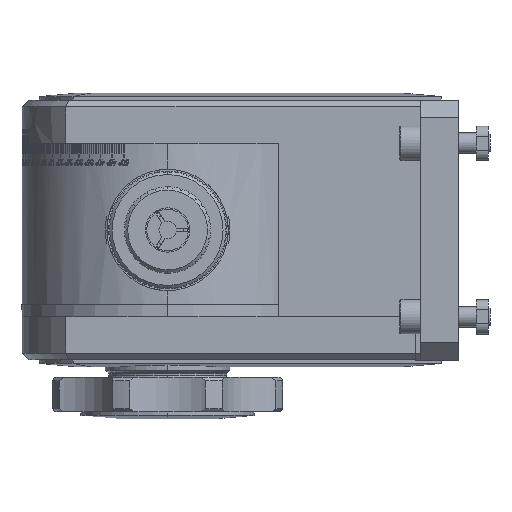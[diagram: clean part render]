
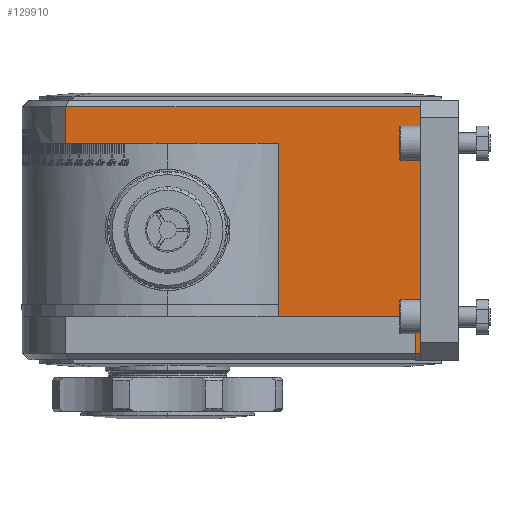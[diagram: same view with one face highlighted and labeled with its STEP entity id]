
A CAD part, left-side view. The second image highlights one B-rep face of the part: STEP entity #129910.
In plain terms, the highlighted planar face has unit normal (-1, 0, 0).
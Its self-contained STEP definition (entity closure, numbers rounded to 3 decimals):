
#3580 = ORIENTED_EDGE ( 'NONE', *, *, #45693, .F. ) ;
#4707 = VERTEX_POINT ( 'NONE', #95624 ) ;
#7095 = EDGE_CURVE ( 'NONE', #31865, #85258, #20490, .T. ) ;
#7173 = CARTESIAN_POINT ( 'NONE',  ( -30., -73., 25. ) ) ;
#8089 = ORIENTED_EDGE ( 'NONE', *, *, #49760, .F. ) ;
#11224 = VERTEX_POINT ( 'NONE', #135910 ) ;
#12804 = DIRECTION ( 'NONE',  ( 0., 0., 1. ) ) ;
#13016 = CARTESIAN_POINT ( 'NONE',  ( -30., -32., 25. ) ) ;
#14128 = CARTESIAN_POINT ( 'NONE',  ( -30., 0., 25. ) ) ;
#20490 = LINE ( 'NONE', #40951, #135490 ) ;
#20551 = EDGE_CURVE ( 'NONE', #102044, #4707, #34190, .T. ) ;
#24769 = DIRECTION ( 'NONE',  ( 0., -1., 0. ) ) ;
#31865 = VERTEX_POINT ( 'NONE', #72848 ) ;
#32614 = ORIENTED_EDGE ( 'NONE', *, *, #20551, .T. ) ;
#34190 = LINE ( 'NONE', #65217, #107113 ) ;
#34398 = ORIENTED_EDGE ( 'NONE', *, *, #128861, .T. ) ;
#38087 = VECTOR ( 'NONE', #72734, 1000. ) ;
#40951 = CARTESIAN_POINT ( 'NONE',  ( -30., 29.394, 37.5 ) ) ;
#45189 = EDGE_CURVE ( 'NONE', #109903, #77927, #48015, .T. ) ;
#45693 = EDGE_CURVE ( 'NONE', #102044, #77927, #119929, .T. ) ;
#48015 = LINE ( 'NONE', #67075, #67076 ) ;
#49760 = EDGE_CURVE ( 'NONE', #11224, #4707, #126247, .T. ) ;
#52600 = ORIENTED_EDGE ( 'NONE', *, *, #124536, .T. ) ;
#57711 = CARTESIAN_POINT ( 'NONE',  ( -30., -84., 25. ) ) ;
#65217 = CARTESIAN_POINT ( 'NONE',  ( -30., 0., -35.5 ) ) ;
#66409 = CARTESIAN_POINT ( 'NONE',  ( -30., -71.5, -37.5 ) ) ;
#66628 = EDGE_LOOP ( 'NONE', ( #3580, #32614, #8089, #52600, #99601, #85810, #34398, #103291 ) ) ;
#67075 = CARTESIAN_POINT ( 'NONE',  ( -30., 0., -25. ) ) ;
#67076 = VECTOR ( 'NONE', #24769, 1000. ) ;
#68066 = EDGE_CURVE ( 'NONE', #85258, #114255, #134471, .T. ) ;
#71356 = CARTESIAN_POINT ( 'NONE',  ( -30., -71.5, -25. ) ) ;
#71394 = VECTOR ( 'NONE', #124590, 1000. ) ;
#72734 = DIRECTION ( 'NONE',  ( 0., 0., -1. ) ) ;
#72848 = CARTESIAN_POINT ( 'NONE',  ( -30., 29.394, 35.5 ) ) ;
#77927 = VERTEX_POINT ( 'NONE', #71356 ) ;
#79664 = FACE_OUTER_BOUND ( 'NONE', #66628, .T. ) ;
#85258 = VERTEX_POINT ( 'NONE', #114914 ) ;
#85810 = ORIENTED_EDGE ( 'NONE', *, *, #68066, .T. ) ;
#88400 = DIRECTION ( 'NONE',  ( 0., 1., 0. ) ) ;
#90216 = DIRECTION ( 'NONE',  ( 0., 1., 0. ) ) ;
#94946 = VECTOR ( 'NONE', #88400, 1000. ) ;
#95624 = CARTESIAN_POINT ( 'NONE',  ( -30., -73., -35.5 ) ) ;
#98238 = DIRECTION ( 'NONE',  ( 0., -1., 0. ) ) ;
#99601 = ORIENTED_EDGE ( 'NONE', *, *, #7095, .T. ) ;
#100064 = DIRECTION ( 'NONE',  ( 1., 0., 0. ) ) ;
#101764 = LINE ( 'NONE', #134197, #104011 ) ;
#102044 = VERTEX_POINT ( 'NONE', #126513 ) ;
#103291 = ORIENTED_EDGE ( 'NONE', *, *, #45189, .T. ) ;
#104011 = VECTOR ( 'NONE', #111005, 1000. ) ;
#104114 = AXIS2_PLACEMENT_3D ( 'NONE', #14128, #100064, #90216 ) ;
#107113 = VECTOR ( 'NONE', #98238, 1000. ) ;
#109903 = VERTEX_POINT ( 'NONE', #136189 ) ;
#111005 = DIRECTION ( 'NONE',  ( 0., 0., -1. ) ) ;
#114255 = VERTEX_POINT ( 'NONE', #13016 ) ;
#114914 = CARTESIAN_POINT ( 'NONE',  ( -30., 29.394, 25. ) ) ;
#119929 = LINE ( 'NONE', #66409, #125588 ) ;
#121219 = PLANE ( 'NONE',  #104114 ) ;
#121462 = CARTESIAN_POINT ( 'NONE',  ( -30., 29.394, 35.5 ) ) ;
#124536 = EDGE_CURVE ( 'NONE', #11224, #31865, #129319, .T. ) ;
#124590 = DIRECTION ( 'NONE',  ( 0., -1., 0. ) ) ;
#125588 = VECTOR ( 'NONE', #12804, 1000. ) ;
#126247 = LINE ( 'NONE', #7173, #38087 ) ;
#126513 = CARTESIAN_POINT ( 'NONE',  ( -30., -71.5, -35.5 ) ) ;
#128861 = EDGE_CURVE ( 'NONE', #114255, #109903, #101764, .T. ) ;
#129319 = LINE ( 'NONE', #121462, #94946 ) ;
#129910 = ADVANCED_FACE ( 'NONE', ( #79664 ), #121219, .F. ) ;
#134197 = CARTESIAN_POINT ( 'NONE',  ( -30., -32., 25. ) ) ;
#134471 = LINE ( 'NONE', #57711, #71394 ) ;
#135490 = VECTOR ( 'NONE', #138841, 1000. ) ;
#135910 = CARTESIAN_POINT ( 'NONE',  ( -30., -73., 35.5 ) ) ;
#136189 = CARTESIAN_POINT ( 'NONE',  ( -30., -32., -25. ) ) ;
#138841 = DIRECTION ( 'NONE',  ( 0., 0., -1. ) ) ;
